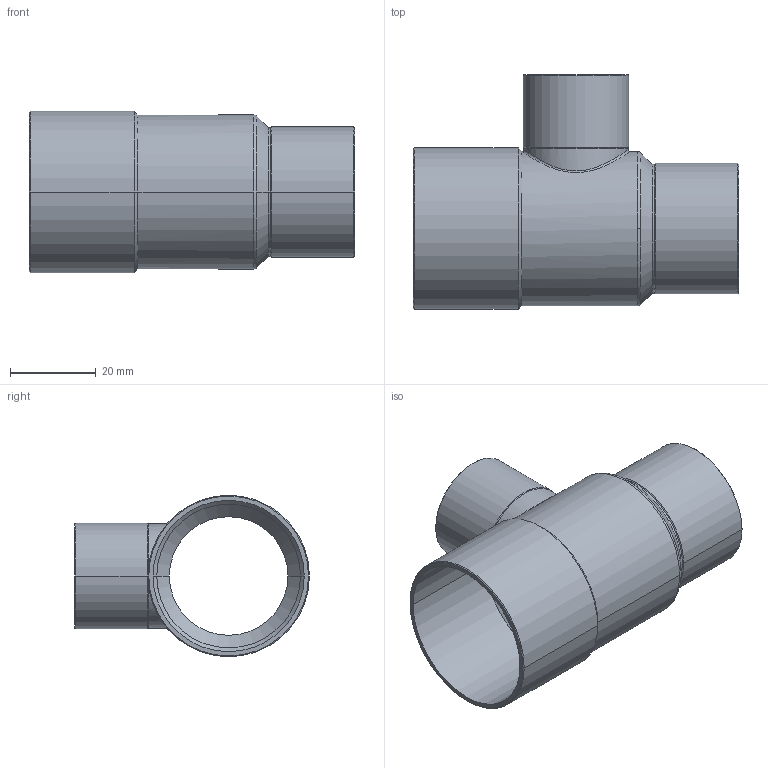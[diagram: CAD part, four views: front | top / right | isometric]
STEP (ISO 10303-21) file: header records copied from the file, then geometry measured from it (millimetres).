
FILE_DESCRIPTION((''),'2;1');
FILE_NAME('G:\Technics\CAD\Bauteile\15130\15130352228.stp','2005-11-03T13:42:54',('boden'),(''),'Autodesk Inventor 8','Autodesk Inventor 8','');
FILE_SCHEMA(('AUTOMOTIVE_DESIGN { 1 0 10303 214 1 1 1 1 }'));
Length unit declared in the file: millimetre
Products named in the file (1): 15130352228
Bounding box: 76 x 54.88 x 37.75 mm (x, y, z)
Volume: 11284.6 mm3; surface area: 18882.8 mm2
Topology: 1 solids, 1 shells, 55 faces, 125 edges, 71 vertices
Faces by surface type: cylinder 24, cone 24, plane 3, torus 2, bspline 2
Entity records: 1940 total; most frequent: CARTESIAN_POINT 670, DIRECTION 281, ORIENTED_EDGE 250, EDGE_CURVE 125, AXIS2_PLACEMENT_3D 116, VERTEX_POINT 71, CIRCLE 62, EDGE_LOOP 58
